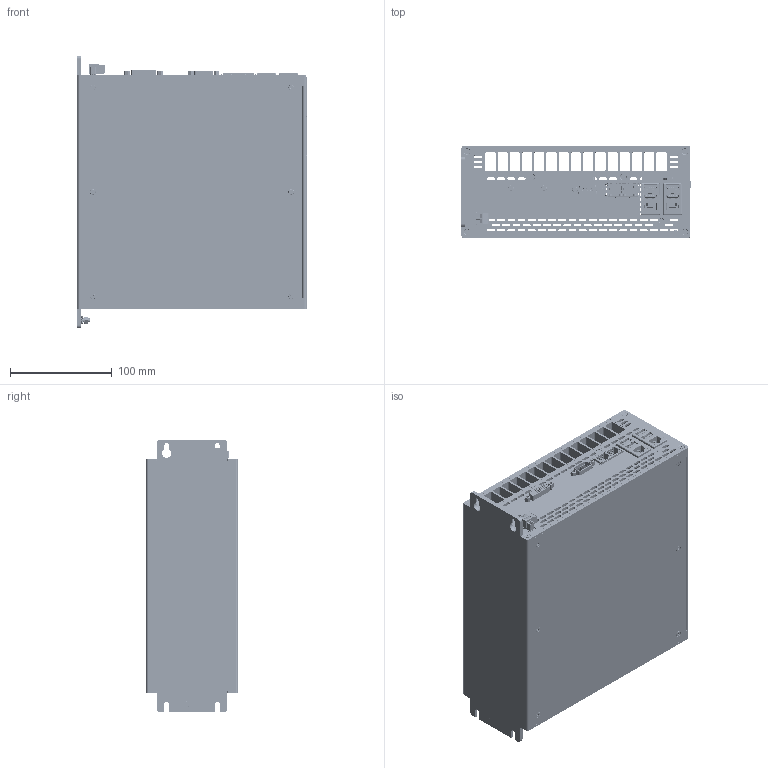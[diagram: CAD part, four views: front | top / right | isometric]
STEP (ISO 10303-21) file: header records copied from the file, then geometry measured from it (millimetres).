
FILE_DESCRIPTION (( 'STEP AP214' ), '1' );
FILE_NAME ('C6P34-BM_D1_DVI.STEP', '2019-09-20T11:34:55', ( '' ), ( '' ), 'SwSTEP 2.0', 'SolidWorks 2018', '' );
FILE_SCHEMA (( 'AUTOMOTIVE_DESIGN' ));
Length unit declared in the file: millimetre
Products named in the file (40): 21509026; 56636706; 20100011; 21512011; 52536136; 62920011; 57136005; 66811014; 21614000; 21402062; 61820002; 21410046; 52912002; 21502089; 56636681; 21409042; C6P34-BM_D1_DVI; 54336010; 66320015; 62920001; 66820000; 14300036; 7359_051_Depopolata; 57136006; 7397_279; 7359_051; 21410056; 62120039; 23330039; 62920005; 66011039; 53936027; 54336015; 54236002_Default<A macchina>; 64312003; 62990009; 7397_279_Depopolata; piazzuola_de800_di370; 52500002; 21410052
Assembly tree (97 placements, depth 3):
  C6P34-BM_D1_DVI
    52500002
      52536136
      52912002
      66320015  x4
    7359_051_Depopolata
      7359_051
      23330039  x4
      21410052
      21512011
      21410046  x2
      21410056
      21409042
      20100011
      21509026
      piazzuola_de800_di370  x8
      14300036  x7
    54236002_Default<A macchina>
    7397_279_Depopolata
      7397_279
      21502089
      piazzuola_de800_di370  x5
    21402062
    54336015
      54336010
      57136005
      62990009  x4
      64312003  x4
      62120039  x2
      57136006
    56636681
    56636706
    53936027  x2
    21614000  x4
    66011039  x12
    62920001
    62920005
    62920011
    61820002
    66820000
    66811014  x12
Bounding box: 225.01 x 90 x 268 mm (x, y, z)
Volume: 506166.2 mm3; surface area: 911909 mm2
Topology: 154 solids, 265 shells, 16952 faces, 46714 edges, 30417 vertices
Faces by surface type: plane 9977, cylinder 5878, bspline 598, cone 456, torus 43
Entity records: 501753 total; most frequent: CARTESIAN_POINT 111402, ORIENTED_EDGE 78588, DIRECTION 72625, EDGE_CURVE 39453, VECTOR 27567, LINE 27567, VERTEX_POINT 25769, AXIS2_PLACEMENT_3D 22529
